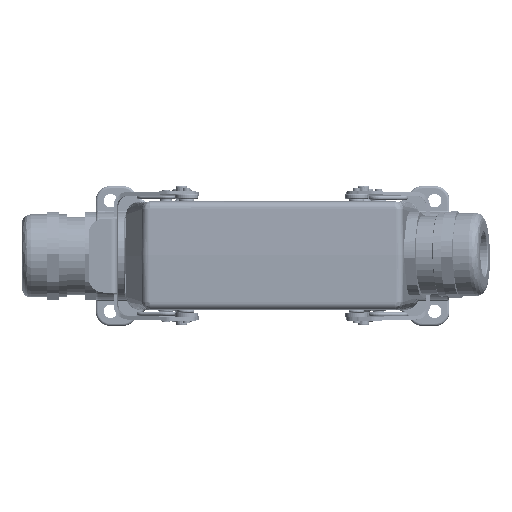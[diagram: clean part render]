
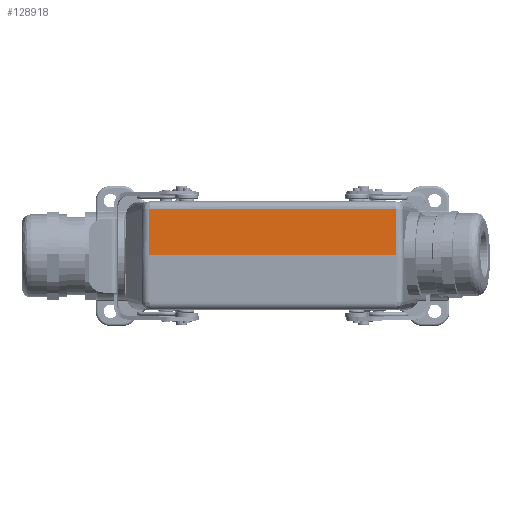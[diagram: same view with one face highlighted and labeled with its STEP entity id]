
A CAD part, top view. The second image highlights one B-rep face of the part: STEP entity #128918.
In plain terms, the highlighted planar face has unit normal (0, 0.018, 1).
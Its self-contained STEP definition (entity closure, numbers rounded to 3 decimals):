
#4434 = VERTEX_POINT ( 'NONE', #60086 ) ;
#5989 = VERTEX_POINT ( 'NONE', #99395 ) ;
#7149 = CARTESIAN_POINT ( 'NONE',  ( -50.153, 18.923, 59.67 ) ) ;
#8613 = EDGE_CURVE ( 'NONE', #4434, #5989, #81726, .T. ) ;
#13682 = EDGE_CURVE ( 'NONE', #70591, #150607, #130230, .T. ) ;
#23713 = DIRECTION ( 'NONE',  ( -1., 0., 0. ) ) ;
#23984 = CARTESIAN_POINT ( 'NONE',  ( 50.153, 18.923, 59.67 ) ) ;
#26137 = ORIENTED_EDGE ( 'NONE', *, *, #8613, .F. ) ;
#26841 = VERTEX_POINT ( 'NONE', #115891 ) ;
#36078 = ORIENTED_EDGE ( 'NONE', *, *, #118185, .F. ) ;
#37781 = CARTESIAN_POINT ( 'NONE',  ( 50.057, 19.052, 59.667 ) ) ;
#39120 = ORIENTED_EDGE ( 'NONE', *, *, #13682, .T. ) ;
#43594 = DIRECTION ( 'NONE',  ( 0., 0.017, 1. ) ) ;
#44666 = CARTESIAN_POINT ( 'NONE',  ( 50.021, 19.052, 59.667 ) ) ;
#45887 = ORIENTED_EDGE ( 'NONE', *, *, #129957, .F. ) ;
#46127 = ORIENTED_EDGE ( 'NONE', *, *, #63194, .T. ) ;
#52291 = CARTESIAN_POINT ( 'NONE',  ( 50.338, 6.308, 59.89 ) ) ;
#53412 = CARTESIAN_POINT ( 'NONE',  ( 50.152, 18.958, 59.669 ) ) ;
#55818 = CARTESIAN_POINT ( 'NONE',  ( -50.021, 19.052, 59.667 ) ) ;
#60086 = CARTESIAN_POINT ( 'NONE',  ( 50.43, 0., 60. ) ) ;
#61734 = B_SPLINE_CURVE_WITH_KNOTS ( 'NONE', 3,
 ( #75089, #144121, #114689, #143225, #73276, #74184 ),
 .UNSPECIFIED., .F., .F.,
 ( 4, 2, 4 ),
 ( 0., 0.5, 1. ),
 .UNSPECIFIED. ) ;
#63194 = EDGE_CURVE ( 'NONE', #26841, #70591, #127952, .T. ) ;
#63259 = AXIS2_PLACEMENT_3D ( 'NONE', #73956, #43594, #167933 ) ;
#67901 = CARTESIAN_POINT ( 'NONE',  ( -52.947, 0., 60. ) ) ;
#70591 = VERTEX_POINT ( 'NONE', #44666 ) ;
#73276 = CARTESIAN_POINT ( 'NONE',  ( -50.055, 19.052, 59.667 ) ) ;
#73956 = CARTESIAN_POINT ( 'NONE',  ( -52.947, 0., 60. ) ) ;
#74184 = CARTESIAN_POINT ( 'NONE',  ( -50.021, 19.052, 59.667 ) ) ;
#75089 = CARTESIAN_POINT ( 'NONE',  ( -50.153, 18.923, 59.67 ) ) ;
#75647 = EDGE_CURVE ( 'NONE', #98139, #150607, #61734, .T. ) ;
#75935 = CARTESIAN_POINT ( 'NONE',  ( -52.947, 19.052, 59.667 ) ) ;
#81726 = LINE ( 'NONE', #67901, #92023 ) ;
#84205 = PLANE ( 'NONE',  #63259 ) ;
#90130 = CARTESIAN_POINT ( 'NONE',  ( 50.43, 0., 60. ) ) ;
#92023 = VECTOR ( 'NONE', #23713, 1000. ) ;
#94842 = CARTESIAN_POINT ( 'NONE',  ( 50.138, 18.99, 59.669 ) ) ;
#98139 = VERTEX_POINT ( 'NONE', #157379 ) ;
#99141 = CARTESIAN_POINT ( 'NONE',  ( 50.021, 19.052, 59.667 ) ) ;
#99395 = CARTESIAN_POINT ( 'NONE',  ( -50.43, 0., 60. ) ) ;
#102833 = VECTOR ( 'NONE', #105361, 1000. ) ;
#105361 = DIRECTION ( 'NONE',  ( -1., 0., 0. ) ) ;
#109440 = ORIENTED_EDGE ( 'NONE', *, *, #75647, .F. ) ;
#114689 = CARTESIAN_POINT ( 'NONE',  ( -50.138, 18.991, 59.669 ) ) ;
#114948 = CARTESIAN_POINT ( 'NONE',  ( -50.43, 0., 60. ) ) ;
#115891 = CARTESIAN_POINT ( 'NONE',  ( 50.153, 18.923, 59.67 ) ) ;
#118185 = EDGE_CURVE ( 'NONE', #26841, #4434, #131549, .T. ) ;
#118585 = CARTESIAN_POINT ( 'NONE',  ( -50.338, 6.308, 59.89 ) ) ;
#119533 = CARTESIAN_POINT ( 'NONE',  ( 50.153, 18.923, 59.67 ) ) ;
#127952 = B_SPLINE_CURVE_WITH_KNOTS ( 'NONE', 3,
 ( #23984, #53412, #94842, #141470, #37781, #99141 ),
 .UNSPECIFIED., .F., .F.,
 ( 4, 2, 4 ),
 ( 0., 0.5, 1. ),
 .UNSPECIFIED. ) ;
#128918 = ADVANCED_FACE ( 'NONE', ( #169710 ), #84205, .T. ) ;
#129957 = EDGE_CURVE ( 'NONE', #5989, #98139, #170059, .T. ) ;
#130230 = LINE ( 'NONE', #75935, #102833 ) ;
#131549 = B_SPLINE_CURVE_WITH_KNOTS ( 'NONE', 3,
 ( #119533, #149864, #52291, #90130 ),
 .UNSPECIFIED., .F., .F.,
 ( 4, 4 ),
 ( 0., 1. ),
 .UNSPECIFIED. ) ;
#137000 = EDGE_LOOP ( 'NONE', ( #39120, #109440, #45887, #26137, #36078, #46127 ) ) ;
#141470 = CARTESIAN_POINT ( 'NONE',  ( 50.088, 19.04, 59.668 ) ) ;
#143225 = CARTESIAN_POINT ( 'NONE',  ( -50.089, 19.039, 59.668 ) ) ;
#144121 = CARTESIAN_POINT ( 'NONE',  ( -50.152, 18.957, 59.669 ) ) ;
#149864 = CARTESIAN_POINT ( 'NONE',  ( 50.245, 12.615, 59.78 ) ) ;
#150607 = VERTEX_POINT ( 'NONE', #55818 ) ;
#157379 = CARTESIAN_POINT ( 'NONE',  ( -50.153, 18.923, 59.67 ) ) ;
#167933 = DIRECTION ( 'NONE',  ( 1., 0., 0. ) ) ;
#169710 = FACE_OUTER_BOUND ( 'NONE', #137000, .T. ) ;
#170059 = B_SPLINE_CURVE_WITH_KNOTS ( 'NONE', 3,
 ( #114948, #118585, #174752, #7149 ),
 .UNSPECIFIED., .F., .F.,
 ( 4, 4 ),
 ( 0., 1. ),
 .UNSPECIFIED. ) ;
#174752 = CARTESIAN_POINT ( 'NONE',  ( -50.245, 12.615, 59.78 ) ) ;
